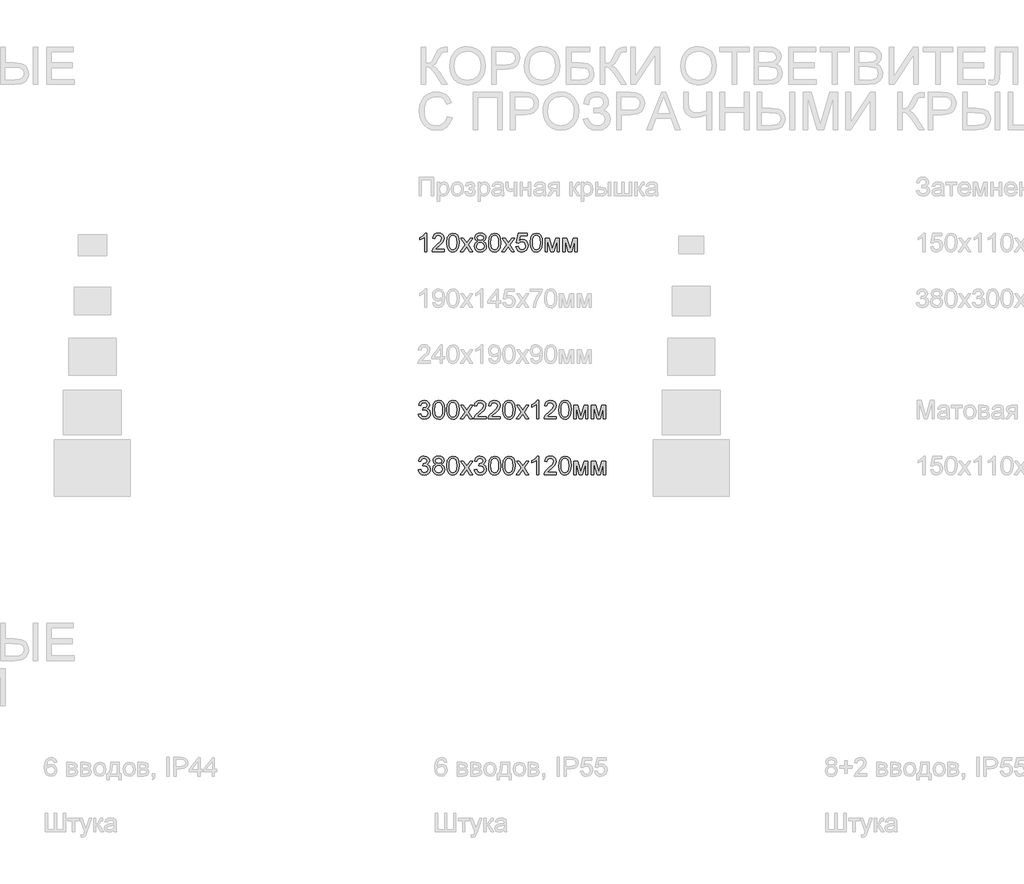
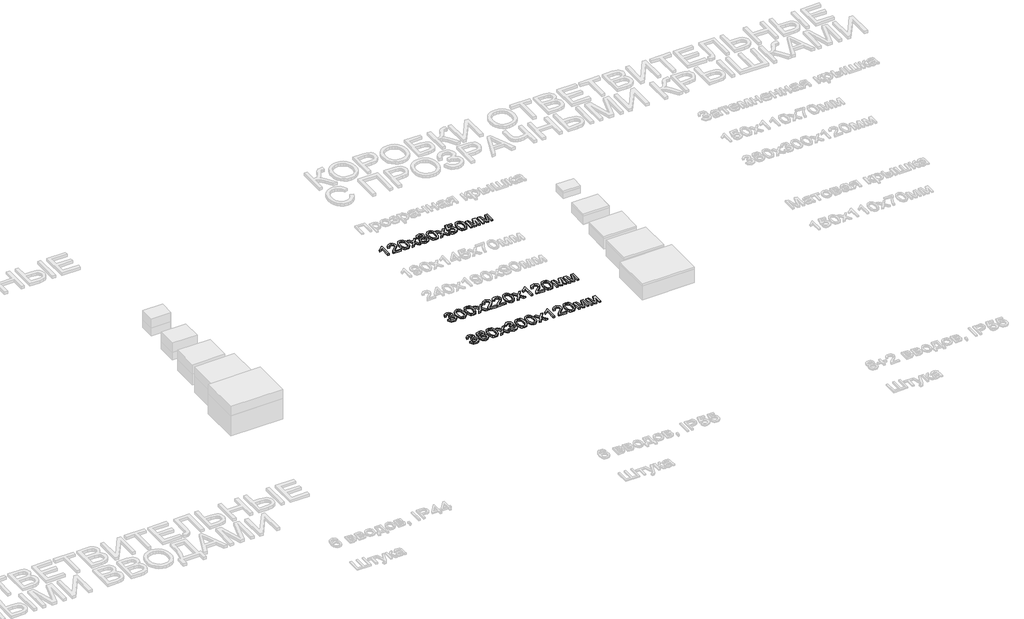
# One storey, part 21 of 98: 3 proxies.
"""IFC4 building model written with IfcOpenShell, lengths in millimetres."""

from ifc_helpers import new_model, si_unit, origin, origin_with_axes, place, context, project, spatial, polyline, outline, extrude, element, save

model = new_model("IFC4")

# Units and contexts
model_context = context("Model", 3, world=origin())
ifc_project = project(units=[si_unit("LENGTHUNIT", "METRE", prefix="MILLI")], contexts=[model_context])

# Site, building, storey
site = spatial("IfcSite", under=ifc_project)
building = spatial("IfcBuilding", under=site)
storey = spatial("IfcBuildingStorey", under=building, Name="Этаж 01", Elevation=0.0)

# Proxies
placement = place(None, origin())
element("IfcBuildingElementProxy", 1, Name="100", ObjectType="100", at=placement, inside=storey, context=model_context, shape_type="SweptSolid", body=[
    extrude(outline(polyline([(5907.7229186, -42337.5373486), (5895.1658798, -42337.5373486), (5895.1658798, -42259.25206), (5883.2710286, -42267.7256087), (5870.0518023, -42274.0654417), (5870.0518023, -42262.195116), (5888.4581648, -42250.4474176), (5899.6295147, -42237.0810385), (5907.7229186, -42237.0810385), (5907.7229186, -42337.5373486)])), origin_with_axes(), (0.0, 0.0, 1.0), 10.0),
    extrude(outline(polyline([(6001.9007094, -42324.9803098), (6001.9007094, -42337.5373486), (5935.9762558, -42337.5373486), (5937.3251565, -42328.879859), (5944.9525765, -42315.550268), (5960.6734004, -42300.9944038), (5982.3539127, -42280.074181), (5987.7740407, -42265.8494105), (5982.660481, -42254.334704), (5969.3063646, -42249.6380772), (5955.3881624, -42254.2243394), (5950.1029244, -42266.9040055), (5937.5458857, -42265.3343757), (5940.5901092, -42253.1881385), (5947.1721312, -42244.316051), (5956.9485952, -42238.8897916), (5969.5761447, -42237.0810385), (5982.2956647, -42239.0921267), (5992.0537346, -42245.1253914), (5998.2617433, -42254.1385003), (6000.3310795, -42265.089121), (5998.0992621, -42276.9962349), (5990.6803085, -42289.308019), (5972.6908789, -42306.5126337), (5958.2453793, -42318.5914259), (5952.5799965, -42324.9803098), (6001.9007094, -42324.9803098)])), origin_with_axes(), (0.0, 0.0, 1.0), 10.0),
    extrude(outline(polyline([(6014.4577481, -42288.1185339), (6018.1488308, -42259.2152718), (6029.1117143, -42242.5502175), (6047.4199749, -42237.0810385), (6062.0862038, -42240.3184), (6072.2152214, -42249.65034), (6078.1013333, -42264.5127726), (6080.3822017, -42288.1185339), (6076.7279072, -42316.8991687), (6065.8018119, -42333.6010113), (6057.5704523, -42337.7304867), (6047.4199749, -42339.1069785), (6034.3724268, -42336.7157455), (6024.4641384, -42329.5420466), (6016.9593457, -42312.5520298), (6014.4577481, -42288.1185339)]), holes=[polyline([(6027.0147869, -42288.0940085), (6028.4863149, -42307.8462059), (6032.9008988, -42319.2781389), (6039.4737238, -42324.7319895), (6047.4199749, -42326.5499397), (6055.366226, -42324.7258581), (6061.939051, -42319.2536135), (6066.3536349, -42307.8155491), (6067.8251629, -42288.0940085), (6066.4026858, -42268.7863351), (6062.1352547, -42257.2654973), (6055.5746925, -42251.5449322), (6047.2728221, -42249.6380772), (6039.4124101, -42251.3180717), (6033.0971025, -42256.358055), (6028.5353658, -42268.5962627), (6027.0147869, -42288.0940085)])]), origin_with_axes(), (0.0, 0.0, 1.0), 10.0),
    extrude(outline(polyline([(6086.660721, -42337.5373486), (6113.4915812, -42300.4548435), (6088.2303509, -42263.7647458), (6103.3380382, -42263.7647458), (6115.5271949, -42281.4230816), (6121.2171031, -42289.7617402), (6126.1467219, -42282.9436605), (6140.0281358, -42263.7647458), (6155.1358231, -42263.7647458), (6128.5992685, -42300.4548435), (6154.1548044, -42337.5373486), (6139.0471172, -42337.5373486), (6123.6696498, -42315.2436997), (6120.8492211, -42311.1724723), (6101.7684083, -42337.5373486), (6086.660721, -42337.5373486)])), origin_with_axes(), (0.0, 0.0, 1.0), 10.0),
    extrude(outline(polyline([(6180.2989516, -42282.2078965), (6168.8578215, -42274.4087982), (6165.1422134, -42262.2686924), (6167.1655643, -42252.4523745), (6173.2356172, -42244.3405765), (6182.6717904, -42238.895923), (6194.7935022, -42237.0810385), (6206.9887903, -42238.9388425), (6216.5475908, -42244.5122548), (6222.7280083, -42252.7528115), (6224.7881475, -42262.6120489), (6221.1215903, -42274.4455864), (6209.9992913, -42282.2078965), (6223.3534077, -42292.0548713), (6227.9274072, -42308.3029927), (6225.6588016, -42320.3082085), (6218.8529846, -42330.2287596), (6208.3438223, -42336.8874238), (6194.9651804, -42339.1069785), (6181.5865385, -42336.8782267), (6171.0773762, -42330.1919714), (6164.2715593, -42320.1763841), (6162.0029537, -42307.9596362), (6166.7608941, -42291.33137), (6180.2989516, -42282.2078965)]), holes=[polyline([(6174.5599924, -42307.5181778), (6176.6569198, -42316.9727451), (6184.0758734, -42324.0483421), (6195.0632823, -42326.5499397), (6203.6104073, -42325.2347616), (6210.0238168, -42321.2892272), (6215.3703684, -42307.9105853), (6209.8521385, -42294.274426), (6203.2915763, -42290.227724), (6194.6463494, -42288.8788234), (6186.218786, -42290.2093299), (6179.8697559, -42294.2008496), (6174.5599924, -42307.5181778)]), polyline([(6177.6992521, -42262.6365744), (6182.1506243, -42272.4958119), (6195.1123332, -42276.3217846), (6207.8165248, -42272.5203373), (6212.2311087, -42263.2006601), (6207.669372, -42253.5498891), (6194.9651804, -42249.6380772), (6182.2242007, -42253.46405), (6177.6992521, -42262.6365744)])]), origin_with_axes(), (0.0, 0.0, 1.0), 10.0),
    extrude(outline(polyline([(6238.9148161, -42288.1185339), (6242.6058988, -42259.2152718), (6253.5687823, -42242.5502175), (6271.8770429, -42237.0810385), (6286.5432718, -42240.3184), (6296.6722894, -42249.65034), (6302.5584013, -42264.5127726), (6304.8392697, -42288.1185339), (6301.1849752, -42316.8991687), (6290.2588799, -42333.6010113), (6282.0275203, -42337.7304867), (6271.8770429, -42339.1069785), (6258.8294948, -42336.7157455), (6248.9212064, -42329.5420466), (6241.4164137, -42312.5520298), (6238.9148161, -42288.1185339)]), holes=[polyline([(6251.4718549, -42288.0940085), (6252.9433829, -42307.8462059), (6257.3579668, -42319.2781389), (6263.9307918, -42324.7319895), (6271.8770429, -42326.5499397), (6279.823294, -42324.7258581), (6286.396119, -42319.2536135), (6290.8107029, -42307.8155491), (6292.2822309, -42288.0940085), (6290.8597538, -42268.7863351), (6286.5923227, -42257.2654973), (6280.0317604, -42251.5449322), (6271.7298901, -42249.6380772), (6263.8694781, -42251.3180717), (6257.5541705, -42256.358055), (6252.9924338, -42268.5962627), (6251.4718549, -42288.0940085)])]), origin_with_axes(), (0.0, 0.0, 1.0), 10.0),
    extrude(outline(polyline([(6311.117789, -42337.5373486), (6337.9486492, -42300.4548435), (6312.6874189, -42263.7647458), (6327.7951062, -42263.7647458), (6339.9842629, -42281.4230816), (6345.6741711, -42289.7617402), (6350.6037899, -42282.9436605), (6364.4852038, -42263.7647458), (6379.5928911, -42263.7647458), (6353.0563365, -42300.4548435), (6378.6118724, -42337.5373486), (6363.5041852, -42337.5373486), (6348.1267178, -42315.2436997), (6345.3062891, -42311.1724723), (6326.2254763, -42337.5373486), (6311.117789, -42337.5373486)])), origin_with_axes(), (0.0, 0.0, 1.0), 10.0),
    extrude(outline(polyline([(6386.4600216, -42310.8536412), (6399.0170604, -42309.2840114), (6405.3446307, -42322.2211949), (6418.4657552, -42326.5499397), (6427.4666014, -42325.0446892), (6434.2111046, -42320.5289377), (6438.4233535, -42313.5238514), (6439.8274364, -42304.5505964), (6434.5667239, -42289.6391128), (6427.9601764, -42285.5372286), (6418.661959, -42284.1699338), (6407.6377618, -42286.3527004), (6400.5866903, -42292.0180831), (6388.0296515, -42290.4484532), (6399.0170604, -42238.6506683), (6447.6755856, -42238.6506683), (6447.6755856, -42251.2077071), (6409.1706035, -42251.2077071), (6403.7995264, -42278.8724331), (6412.7697157, -42273.4277796), (6422.1691006, -42271.6128951), (6433.9014706, -42273.8631066), (6443.6411464, -42280.6137412), (6450.198643, -42290.9021744), (6452.3844752, -42303.7657815), (6450.4163065, -42316.3228202), (6444.5118005, -42327.0649745), (6433.2055605, -42336.0964775), (6418.4167043, -42339.1069785), (6406.0834604, -42337.1725323), (6396.2579455, -42331.3691938), (6389.5226393, -42322.3714134), (6386.4600216, -42310.8536412)])), origin_with_axes(), (0.0, 0.0, 1.0), 10.0),
    extrude(outline(polyline([(6463.3718841, -42288.1185339), (6467.0629668, -42259.2152718), (6478.0258502, -42242.5502175), (6496.3341109, -42237.0810385), (6511.0003398, -42240.3184), (6521.1293574, -42249.65034), (6527.0154693, -42264.5127726), (6529.2963376, -42288.1185339), (6525.6420432, -42316.8991687), (6514.7159479, -42333.6010113), (6506.4845883, -42337.7304867), (6496.3341109, -42339.1069785), (6483.2865628, -42336.7157455), (6473.3782744, -42329.5420466), (6465.8734817, -42312.5520298), (6463.3718841, -42288.1185339)]), holes=[polyline([(6475.9289229, -42288.0940085), (6477.4004509, -42307.8462059), (6481.8150348, -42319.2781389), (6488.3878598, -42324.7319895), (6496.3341109, -42326.5499397), (6504.280362, -42324.7258581), (6510.853187, -42319.2536135), (6515.2677709, -42307.8155491), (6516.7392989, -42288.0940085), (6515.3168218, -42268.7863351), (6511.0493907, -42257.2654973), (6504.4888284, -42251.5449322), (6496.1869581, -42249.6380772), (6488.3265461, -42251.3180717), (6482.0112385, -42256.358055), (6477.4495018, -42268.5962627), (6475.9289229, -42288.0940085)])]), origin_with_axes(), (0.0, 0.0, 1.0), 10.0),
    extrude(outline(polyline([(6543.4230063, -42263.7647458), (6565.0299421, -42263.7647458), (6581.6827338, -42322.8220688), (6599.6353751, -42263.7647458), (6620.3348687, -42263.7647458), (6620.3348687, -42337.5373486), (6607.7778299, -42337.5373486), (6607.7778299, -42278.1366691), (6589.7270867, -42337.5373486), (6573.2459733, -42337.5373486), (6555.980045, -42275.291715), (6555.980045, -42337.5373486), (6543.4230063, -42337.5373486), (6543.4230063, -42263.7647458)])), origin_with_axes(), (0.0, 0.0, 1.0), 10.0),
    extrude(outline(polyline([(6639.1704269, -42263.7647458), (6660.7773627, -42263.7647458), (6677.4301544, -42322.8220688), (6695.3827957, -42263.7647458), (6716.0822893, -42263.7647458), (6716.0822893, -42337.5373486), (6703.5252506, -42337.5373486), (6703.5252506, -42278.1366691), (6685.4745073, -42337.5373486), (6668.9933939, -42337.5373486), (6651.7274656, -42275.291715), (6651.7274656, -42337.5373486), (6639.1704269, -42337.5373486), (6639.1704269, -42263.7647458)])), origin_with_axes(), (0.0, 0.0, 1.0), 10.0),
])
element("IfcBuildingElementProxy", 2, Name="100", ObjectType="100", at=placement, inside=storey, context=model_context, shape_type="SweptSolid", body=[
    extrude(outline(polyline([(5860.6340232, -43210.8536412), (5873.191062, -43209.2840114), (5880.1195062, -43222.5032377), (5893.0812152, -43226.5499397), (5901.6896539, -43225.1581195), (5908.3360553, -43220.9826588), (5914.001438, -43207.1993467), (5908.3851062, -43194.2131123), (5894.1112848, -43189.0750271), (5885.3066424, -43190.4484532), (5886.7045939, -43177.8914145), (5888.7156822, -43178.0385673), (5902.9649781, -43174.4333237), (5907.7106559, -43169.8593242), (5909.2925484, -43163.3478129), (5904.7062862, -43153.5253636), (5892.8850115, -43149.6380772), (5880.9165839, -43153.5621518), (5874.7606918, -43165.3343757), (5862.2036531, -43163.7647458), (5865.9008671, -43152.4891627), (5872.4798235, -43144.0707964), (5881.4806696, -43138.8284779), (5892.4435531, -43137.0810385), (5907.5880285, -43140.5268665), (5918.18303, -43149.9446456), (5921.8495872, -43162.6120489), (5918.366971, -43174.188069), (5908.0662751, -43182.5022021), (5921.7514853, -43191.0861154), (5926.5584767, -43207.4200759), (5924.154981, -43219.6582836), (5916.9444939, -43229.8854031), (5906.0613182, -43236.8015846), (5892.6397568, -43239.1069785), (5880.499651, -43237.1388098), (5870.615888, -43231.2343038), (5863.7426261, -43222.2028008), (5860.6340232, -43210.8536412)])), origin_with_axes(), (0.0, 0.0, 1.0), 10.0),
    extrude(outline(polyline([(5937.5458857, -43188.1185339), (5941.2369684, -43159.2152718), (5952.1998518, -43142.5502175), (5970.5081124, -43137.0810385), (5985.1743413, -43140.3184), (5995.3033589, -43149.65034), (6001.1894708, -43164.5127726), (6003.4703392, -43188.1185339), (5999.8160447, -43216.8991687), (5988.8899495, -43233.6010113), (5980.6585898, -43237.7304867), (5970.5081124, -43239.1069785), (5957.4605643, -43236.7157455), (5947.5522759, -43229.5420466), (5940.0474832, -43212.5520298), (5937.5458857, -43188.1185339)]), holes=[polyline([(5950.1029244, -43188.0940085), (5951.5744524, -43207.8462059), (5955.9890364, -43219.2781389), (5962.5618613, -43224.7319895), (5970.5081124, -43226.5499397), (5978.4543635, -43224.7258581), (5985.0271885, -43219.2536135), (5989.4417725, -43207.8155491), (5990.9133004, -43188.0940085), (5989.4908234, -43168.7863351), (5985.2233922, -43157.2654973), (5978.66283, -43151.5449322), (5970.3609596, -43149.6380772), (5962.5005477, -43151.3180717), (5956.1852401, -43156.358055), (5951.6235034, -43168.5962627), (5950.1029244, -43188.0940085)])]), origin_with_axes(), (0.0, 0.0, 1.0), 10.0),
    extrude(outline(polyline([(6014.4577481, -43188.1185339), (6018.1488308, -43159.2152718), (6029.1117143, -43142.5502175), (6047.4199749, -43137.0810385), (6062.0862038, -43140.3184), (6072.2152214, -43149.65034), (6078.1013333, -43164.5127726), (6080.3822017, -43188.1185339), (6076.7279072, -43216.8991687), (6065.8018119, -43233.6010113), (6057.5704523, -43237.7304867), (6047.4199749, -43239.1069785), (6034.3724268, -43236.7157455), (6024.4641384, -43229.5420466), (6016.9593457, -43212.5520298), (6014.4577481, -43188.1185339)]), holes=[polyline([(6027.0147869, -43188.0940085), (6028.4863149, -43207.8462059), (6032.9008988, -43219.2781389), (6039.4737238, -43224.7319895), (6047.4199749, -43226.5499397), (6055.366226, -43224.7258581), (6061.939051, -43219.2536135), (6066.3536349, -43207.8155491), (6067.8251629, -43188.0940085), (6066.4026858, -43168.7863351), (6062.1352547, -43157.2654973), (6055.5746925, -43151.5449322), (6047.2728221, -43149.6380772), (6039.4124101, -43151.3180717), (6033.0971025, -43156.358055), (6028.5353658, -43168.5962627), (6027.0147869, -43188.0940085)])]), origin_with_axes(), (0.0, 0.0, 1.0), 10.0),
    extrude(outline(polyline([(6086.660721, -43237.5373486), (6113.4915812, -43200.4548435), (6088.2303509, -43163.7647458), (6103.3380382, -43163.7647458), (6115.5271949, -43181.4230816), (6121.2171031, -43189.7617402), (6126.1467219, -43182.9436605), (6140.0281358, -43163.7647458), (6155.1358231, -43163.7647458), (6128.5992685, -43200.4548435), (6154.1548044, -43237.5373486), (6139.0471172, -43237.5373486), (6123.6696498, -43215.2436997), (6120.8492211, -43211.1724723), (6101.7684083, -43237.5373486), (6086.660721, -43237.5373486)])), origin_with_axes(), (0.0, 0.0, 1.0), 10.0),
    extrude(outline(polyline([(6226.3577773, -43224.9803098), (6226.3577773, -43237.5373486), (6160.4333238, -43237.5373486), (6161.7822245, -43228.879859), (6169.4096445, -43215.550268), (6185.1304684, -43200.9944038), (6206.8109807, -43180.074181), (6212.2311087, -43165.8494105), (6207.117549, -43154.334704), (6193.7634326, -43149.6380772), (6179.8452304, -43154.2243394), (6174.5599924, -43166.9040055), (6162.0029537, -43165.3343757), (6165.0471772, -43153.1881385), (6171.6291992, -43144.316051), (6181.4056632, -43138.8897916), (6194.0332127, -43137.0810385), (6206.7527327, -43139.0921267), (6216.5108026, -43145.1253914), (6222.7188113, -43154.1385003), (6224.7881475, -43165.089121), (6222.5563301, -43176.9962349), (6215.1373765, -43189.308019), (6197.1479469, -43206.5126337), (6182.7024473, -43218.5914259), (6177.0370645, -43224.9803098), (6226.3577773, -43224.9803098)])), origin_with_axes(), (0.0, 0.0, 1.0), 10.0),
    extrude(outline(polyline([(6303.2696398, -43224.9803098), (6303.2696398, -43237.5373486), (6237.3451863, -43237.5373486), (6238.6940869, -43228.879859), (6246.321507, -43215.550268), (6262.0423309, -43200.9944038), (6283.7228431, -43180.074181), (6289.1429712, -43165.8494105), (6284.0294115, -43154.334704), (6270.675295, -43149.6380772), (6256.7570929, -43154.2243394), (6251.4718549, -43166.9040055), (6238.9148161, -43165.3343757), (6241.9590396, -43153.1881385), (6248.5410617, -43144.316051), (6258.3175257, -43138.8897916), (6270.9450752, -43137.0810385), (6283.6645951, -43139.0921267), (6293.4226651, -43145.1253914), (6299.6306737, -43154.1385003), (6301.70001, -43165.089121), (6299.4681925, -43176.9962349), (6292.049239, -43189.308019), (6274.0598094, -43206.5126337), (6259.6143097, -43218.5914259), (6253.948927, -43224.9803098), (6303.2696398, -43224.9803098)])), origin_with_axes(), (0.0, 0.0, 1.0), 10.0),
    extrude(outline(polyline([(6315.8266786, -43188.1185339), (6319.5177613, -43159.2152718), (6330.4806447, -43142.5502175), (6348.7889053, -43137.0810385), (6363.4551342, -43140.3184), (6373.5841518, -43149.65034), (6379.4702637, -43164.5127726), (6381.7511321, -43188.1185339), (6378.0968376, -43216.8991687), (6367.1707424, -43233.6010113), (6358.9393827, -43237.7304867), (6348.7889053, -43239.1069785), (6335.7413572, -43236.7157455), (6325.8330688, -43229.5420466), (6318.3282761, -43212.5520298), (6315.8266786, -43188.1185339)]), holes=[polyline([(6328.3837173, -43188.0940085), (6329.8552453, -43207.8462059), (6334.2698293, -43219.2781389), (6340.8426542, -43224.7319895), (6348.7889053, -43226.5499397), (6356.7351564, -43224.7258581), (6363.3079814, -43219.2536135), (6367.7225654, -43207.8155491), (6369.1940933, -43188.0940085), (6367.7716163, -43168.7863351), (6363.5041852, -43157.2654973), (6356.9436229, -43151.5449322), (6348.6417525, -43149.6380772), (6340.7813406, -43151.3180717), (6334.466033, -43156.358055), (6329.9042963, -43168.5962627), (6328.3837173, -43188.0940085)])]), origin_with_axes(), (0.0, 0.0, 1.0), 10.0),
    extrude(outline(polyline([(6388.0296515, -43237.5373486), (6414.8605117, -43200.4548435), (6389.5992813, -43163.7647458), (6404.7069686, -43163.7647458), (6416.8961254, -43181.4230816), (6422.5860336, -43189.7617402), (6427.5156523, -43182.9436605), (6441.3970663, -43163.7647458), (6456.5047535, -43163.7647458), (6429.9681989, -43200.4548435), (6455.5237349, -43237.5373486), (6440.4160476, -43237.5373486), (6425.0385802, -43215.2436997), (6422.2181516, -43211.1724723), (6403.1373388, -43237.5373486), (6388.0296515, -43237.5373486)])), origin_with_axes(), (0.0, 0.0, 1.0), 10.0),
    extrude(outline(polyline([(6510.4607795, -43237.5373486), (6497.9037407, -43237.5373486), (6497.9037407, -43159.25206), (6486.0088895, -43167.7256087), (6472.7896632, -43174.0654417), (6472.7896632, -43162.195116), (6491.1960257, -43150.4474176), (6502.3673756, -43137.0810385), (6510.4607795, -43137.0810385), (6510.4607795, -43237.5373486)])), origin_with_axes(), (0.0, 0.0, 1.0), 10.0),
    extrude(outline(polyline([(6604.6385703, -43224.9803098), (6604.6385703, -43237.5373486), (6538.7141167, -43237.5373486), (6540.0630174, -43228.879859), (6547.6904374, -43215.550268), (6563.4112613, -43200.9944038), (6585.0917736, -43180.074181), (6590.5119016, -43165.8494105), (6585.3983419, -43154.334704), (6572.0442255, -43149.6380772), (6558.1260233, -43154.2243394), (6552.8407853, -43166.9040055), (6540.2837466, -43165.3343757), (6543.3279701, -43153.1881385), (6549.9099921, -43144.316051), (6559.6864561, -43138.8897916), (6572.3140056, -43137.0810385), (6585.0335256, -43139.0921267), (6594.7915955, -43145.1253914), (6600.9996042, -43154.1385003), (6603.0689404, -43165.089121), (6600.837123, -43176.9962349), (6593.4181694, -43189.308019), (6575.4287398, -43206.5126337), (6560.9832402, -43218.5914259), (6555.3178574, -43224.9803098), (6604.6385703, -43224.9803098)])), origin_with_axes(), (0.0, 0.0, 1.0), 10.0),
    extrude(outline(polyline([(6617.195609, -43188.1185339), (6620.8866917, -43159.2152718), (6631.8495752, -43142.5502175), (6650.1578358, -43137.0810385), (6664.8240647, -43140.3184), (6674.9530823, -43149.65034), (6680.8391942, -43164.5127726), (6683.1200626, -43188.1185339), (6679.4657681, -43216.8991687), (6668.5396728, -43233.6010113), (6660.3083132, -43237.7304867), (6650.1578358, -43239.1069785), (6637.1102877, -43236.7157455), (6627.2019993, -43229.5420466), (6619.6972066, -43212.5520298), (6617.195609, -43188.1185339)]), holes=[polyline([(6629.7526478, -43188.0940085), (6631.2241758, -43207.8462059), (6635.6387597, -43219.2781389), (6642.2115847, -43224.7319895), (6650.1578358, -43226.5499397), (6658.1040869, -43224.7258581), (6664.6769119, -43219.2536135), (6669.0914958, -43207.8155491), (6670.5630238, -43188.0940085), (6669.1405467, -43168.7863351), (6664.8731156, -43157.2654973), (6658.3125534, -43151.5449322), (6650.010683, -43149.6380772), (6642.150271, -43151.3180717), (6635.8349634, -43156.358055), (6631.2732267, -43168.5962627), (6629.7526478, -43188.0940085)])]), origin_with_axes(), (0.0, 0.0, 1.0), 10.0),
    extrude(outline(polyline([(6697.2467312, -43163.7647458), (6718.853667, -43163.7647458), (6735.5064587, -43222.8220688), (6753.4591, -43163.7647458), (6774.1585936, -43163.7647458), (6774.1585936, -43237.5373486), (6761.6015549, -43237.5373486), (6761.6015549, -43178.1366691), (6743.5508116, -43237.5373486), (6727.0696983, -43237.5373486), (6709.8037699, -43175.291715), (6709.8037699, -43237.5373486), (6697.2467312, -43237.5373486), (6697.2467312, -43163.7647458)])), origin_with_axes(), (0.0, 0.0, 1.0), 10.0),
    extrude(outline(polyline([(6792.9941518, -43163.7647458), (6814.6010876, -43163.7647458), (6831.2538793, -43222.8220688), (6849.2065206, -43163.7647458), (6869.9060142, -43163.7647458), (6869.9060142, -43237.5373486), (6857.3489755, -43237.5373486), (6857.3489755, -43178.1366691), (6839.2982322, -43237.5373486), (6822.8171189, -43237.5373486), (6805.5511906, -43175.291715), (6805.5511906, -43237.5373486), (6792.9941518, -43237.5373486), (6792.9941518, -43163.7647458)])), origin_with_axes(), (0.0, 0.0, 1.0), 10.0),
])
element("IfcBuildingElementProxy", 3, Name="100", ObjectType="100", at=placement, inside=storey, context=model_context, shape_type="SweptSolid", body=[
    extrude(outline(polyline([(5860.6340232, -43510.8536412), (5873.191062, -43509.2840114), (5880.1195062, -43522.5032377), (5893.0812152, -43526.5499397), (5901.6896539, -43525.1581195), (5908.3360553, -43520.9826588), (5914.001438, -43507.1993467), (5908.3851062, -43494.2131123), (5894.1112848, -43489.0750271), (5885.3066424, -43490.4484532), (5886.7045939, -43477.8914145), (5888.7156822, -43478.0385673), (5902.9649781, -43474.4333237), (5907.7106559, -43469.8593242), (5909.2925484, -43463.3478129), (5904.7062862, -43453.5253636), (5892.8850115, -43449.6380772), (5880.9165839, -43453.5621518), (5874.7606918, -43465.3343757), (5862.2036531, -43463.7647458), (5865.9008671, -43452.4891627), (5872.4798235, -43444.0707964), (5881.4806696, -43438.8284779), (5892.4435531, -43437.0810385), (5907.5880285, -43440.5268665), (5918.18303, -43449.9446456), (5921.8495872, -43462.6120489), (5918.366971, -43474.188069), (5908.0662751, -43482.5022021), (5921.7514853, -43491.0861154), (5926.5584767, -43507.4200759), (5924.154981, -43519.6582836), (5916.9444939, -43529.8854031), (5906.0613182, -43536.8015846), (5892.6397568, -43539.1069785), (5880.499651, -43537.1388098), (5870.615888, -43531.2343038), (5863.7426261, -43522.2028008), (5860.6340232, -43510.8536412)])), origin_with_axes(), (0.0, 0.0, 1.0), 10.0),
    extrude(outline(polyline([(5955.8418836, -43482.2078965), (5944.4007535, -43474.4087982), (5940.6851454, -43462.2686924), (5942.7084963, -43452.4523745), (5948.7785493, -43444.3405765), (5958.2147224, -43438.895923), (5970.3364342, -43437.0810385), (5982.5317223, -43438.9388425), (5992.0905228, -43444.5122548), (5998.2709403, -43452.7528115), (6000.3310795, -43462.6120489), (5996.6645223, -43474.4455864), (5985.5422233, -43482.2078965), (5998.8963397, -43492.0548713), (6003.4703392, -43508.3029927), (6001.2017336, -43520.3082085), (5994.3959167, -43530.2287596), (5983.8867543, -43536.8874238), (5970.5081124, -43539.1069785), (5957.1294705, -43536.8782267), (5946.6203082, -43530.1919714), (5939.8144913, -43520.1763841), (5937.5458857, -43507.9596362), (5942.3038261, -43491.33137), (5955.8418836, -43482.2078965)]), holes=[polyline([(5953.2421841, -43462.6365744), (5957.6935563, -43472.4958119), (5970.6552652, -43476.3217846), (5983.3594568, -43472.5203373), (5987.7740407, -43463.2006601), (5983.212304, -43453.5498891), (5970.5081124, -43449.6380772), (5957.7671327, -43453.46405), (5953.2421841, -43462.6365744)]), polyline([(5950.1029244, -43507.5181778), (5952.1998518, -43516.9727451), (5959.6188054, -43524.0483421), (5970.6062143, -43526.5499397), (5979.1533393, -43525.2347616), (5985.5667488, -43521.2892272), (5990.9133004, -43507.9105853), (5985.3950705, -43494.274426), (5978.8345083, -43490.227724), (5970.1892814, -43488.8788234), (5961.761718, -43490.2093299), (5955.4126879, -43494.2008496), (5950.1029244, -43507.5181778)])]), origin_with_axes(), (0.0, 0.0, 1.0), 10.0),
    extrude(outline(polyline([(6014.4577481, -43488.1185339), (6018.1488308, -43459.2152718), (6029.1117143, -43442.5502175), (6047.4199749, -43437.0810385), (6062.0862038, -43440.3184), (6072.2152214, -43449.65034), (6078.1013333, -43464.5127726), (6080.3822017, -43488.1185339), (6076.7279072, -43516.8991687), (6065.8018119, -43533.6010113), (6057.5704523, -43537.7304867), (6047.4199749, -43539.1069785), (6034.3724268, -43536.7157455), (6024.4641384, -43529.5420466), (6016.9593457, -43512.5520298), (6014.4577481, -43488.1185339)]), holes=[polyline([(6027.0147869, -43488.0940085), (6028.4863149, -43507.8462059), (6032.9008988, -43519.2781389), (6039.4737238, -43524.7319895), (6047.4199749, -43526.5499397), (6055.366226, -43524.7258581), (6061.939051, -43519.2536135), (6066.3536349, -43507.8155491), (6067.8251629, -43488.0940085), (6066.4026858, -43468.7863351), (6062.1352547, -43457.2654973), (6055.5746925, -43451.5449322), (6047.2728221, -43449.6380772), (6039.4124101, -43451.3180717), (6033.0971025, -43456.358055), (6028.5353658, -43468.5962627), (6027.0147869, -43488.0940085)])]), origin_with_axes(), (0.0, 0.0, 1.0), 10.0),
    extrude(outline(polyline([(6086.660721, -43537.5373486), (6113.4915812, -43500.4548435), (6088.2303509, -43463.7647458), (6103.3380382, -43463.7647458), (6115.5271949, -43481.4230816), (6121.2171031, -43489.7617402), (6126.1467219, -43482.9436605), (6140.0281358, -43463.7647458), (6155.1358231, -43463.7647458), (6128.5992685, -43500.4548435), (6154.1548044, -43537.5373486), (6139.0471172, -43537.5373486), (6123.6696498, -43515.2436997), (6120.8492211, -43511.1724723), (6101.7684083, -43537.5373486), (6086.660721, -43537.5373486)])), origin_with_axes(), (0.0, 0.0, 1.0), 10.0),
    extrude(outline(polyline([(6162.0029537, -43510.8536412), (6174.5599924, -43509.2840114), (6181.4884367, -43522.5032377), (6194.4501456, -43526.5499397), (6203.0585843, -43525.1581195), (6209.7049857, -43520.9826588), (6215.3703684, -43507.1993467), (6209.7540366, -43494.2131123), (6195.4802152, -43489.0750271), (6186.6755728, -43490.4484532), (6188.0735244, -43477.8914145), (6190.0846126, -43478.0385673), (6204.3339086, -43474.4333237), (6209.0795863, -43469.8593242), (6210.6614789, -43463.3478129), (6206.0752167, -43453.5253636), (6194.2539419, -43449.6380772), (6182.2855143, -43453.5621518), (6176.1296223, -43465.3343757), (6163.5725835, -43463.7647458), (6167.2697976, -43452.4891627), (6173.8487539, -43444.0707964), (6182.8496001, -43438.8284779), (6193.8124835, -43437.0810385), (6208.956959, -43440.5268665), (6219.5519604, -43449.9446456), (6223.2185177, -43462.6120489), (6219.7359014, -43474.188069), (6209.4352056, -43482.5022021), (6223.1204158, -43491.0861154), (6227.9274072, -43507.4200759), (6225.5239115, -43519.6582836), (6218.3134244, -43529.8854031), (6207.4302487, -43536.8015846), (6194.0086872, -43539.1069785), (6181.8685814, -43537.1388098), (6171.9848185, -43531.2343038), (6165.1115565, -43522.2028008), (6162.0029537, -43510.8536412)])), origin_with_axes(), (0.0, 0.0, 1.0), 10.0),
    extrude(outline(polyline([(6238.9148161, -43488.1185339), (6242.6058988, -43459.2152718), (6253.5687823, -43442.5502175), (6271.8770429, -43437.0810385), (6286.5432718, -43440.3184), (6296.6722894, -43449.65034), (6302.5584013, -43464.5127726), (6304.8392697, -43488.1185339), (6301.1849752, -43516.8991687), (6290.2588799, -43533.6010113), (6282.0275203, -43537.7304867), (6271.8770429, -43539.1069785), (6258.8294948, -43536.7157455), (6248.9212064, -43529.5420466), (6241.4164137, -43512.5520298), (6238.9148161, -43488.1185339)]), holes=[polyline([(6251.4718549, -43488.0940085), (6252.9433829, -43507.8462059), (6257.3579668, -43519.2781389), (6263.9307918, -43524.7319895), (6271.8770429, -43526.5499397), (6279.823294, -43524.7258581), (6286.396119, -43519.2536135), (6290.8107029, -43507.8155491), (6292.2822309, -43488.0940085), (6290.8597538, -43468.7863351), (6286.5923227, -43457.2654973), (6280.0317604, -43451.5449322), (6271.7298901, -43449.6380772), (6263.8694781, -43451.3180717), (6257.5541705, -43456.358055), (6252.9924338, -43468.5962627), (6251.4718549, -43488.0940085)])]), origin_with_axes(), (0.0, 0.0, 1.0), 10.0),
    extrude(outline(polyline([(6315.8266786, -43488.1185339), (6319.5177613, -43459.2152718), (6330.4806447, -43442.5502175), (6348.7889053, -43437.0810385), (6363.4551342, -43440.3184), (6373.5841518, -43449.65034), (6379.4702637, -43464.5127726), (6381.7511321, -43488.1185339), (6378.0968376, -43516.8991687), (6367.1707424, -43533.6010113), (6358.9393827, -43537.7304867), (6348.7889053, -43539.1069785), (6335.7413572, -43536.7157455), (6325.8330688, -43529.5420466), (6318.3282761, -43512.5520298), (6315.8266786, -43488.1185339)]), holes=[polyline([(6328.3837173, -43488.0940085), (6329.8552453, -43507.8462059), (6334.2698293, -43519.2781389), (6340.8426542, -43524.7319895), (6348.7889053, -43526.5499397), (6356.7351564, -43524.7258581), (6363.3079814, -43519.2536135), (6367.7225654, -43507.8155491), (6369.1940933, -43488.0940085), (6367.7716163, -43468.7863351), (6363.5041852, -43457.2654973), (6356.9436229, -43451.5449322), (6348.6417525, -43449.6380772), (6340.7813406, -43451.3180717), (6334.466033, -43456.358055), (6329.9042963, -43468.5962627), (6328.3837173, -43488.0940085)])]), origin_with_axes(), (0.0, 0.0, 1.0), 10.0),
    extrude(outline(polyline([(6388.0296515, -43537.5373486), (6414.8605117, -43500.4548435), (6389.5992813, -43463.7647458), (6404.7069686, -43463.7647458), (6416.8961254, -43481.4230816), (6422.5860336, -43489.7617402), (6427.5156523, -43482.9436605), (6441.3970663, -43463.7647458), (6456.5047535, -43463.7647458), (6429.9681989, -43500.4548435), (6455.5237349, -43537.5373486), (6440.4160476, -43537.5373486), (6425.0385802, -43515.2436997), (6422.2181516, -43511.1724723), (6403.1373388, -43537.5373486), (6388.0296515, -43537.5373486)])), origin_with_axes(), (0.0, 0.0, 1.0), 10.0),
    extrude(outline(polyline([(6510.4607795, -43537.5373486), (6497.9037407, -43537.5373486), (6497.9037407, -43459.25206), (6486.0088895, -43467.7256087), (6472.7896632, -43474.0654417), (6472.7896632, -43462.195116), (6491.1960257, -43450.4474176), (6502.3673756, -43437.0810385), (6510.4607795, -43437.0810385), (6510.4607795, -43537.5373486)])), origin_with_axes(), (0.0, 0.0, 1.0), 10.0),
    extrude(outline(polyline([(6604.6385703, -43524.9803098), (6604.6385703, -43537.5373486), (6538.7141167, -43537.5373486), (6540.0630174, -43528.879859), (6547.6904374, -43515.550268), (6563.4112613, -43500.9944038), (6585.0917736, -43480.074181), (6590.5119016, -43465.8494105), (6585.3983419, -43454.334704), (6572.0442255, -43449.6380772), (6558.1260233, -43454.2243394), (6552.8407853, -43466.9040055), (6540.2837466, -43465.3343757), (6543.3279701, -43453.1881385), (6549.9099921, -43444.316051), (6559.6864561, -43438.8897916), (6572.3140056, -43437.0810385), (6585.0335256, -43439.0921267), (6594.7915955, -43445.1253914), (6600.9996042, -43454.1385003), (6603.0689404, -43465.089121), (6600.837123, -43476.9962349), (6593.4181694, -43489.308019), (6575.4287398, -43506.5126337), (6560.9832402, -43518.5914259), (6555.3178574, -43524.9803098), (6604.6385703, -43524.9803098)])), origin_with_axes(), (0.0, 0.0, 1.0), 10.0),
    extrude(outline(polyline([(6617.195609, -43488.1185339), (6620.8866917, -43459.2152718), (6631.8495752, -43442.5502175), (6650.1578358, -43437.0810385), (6664.8240647, -43440.3184), (6674.9530823, -43449.65034), (6680.8391942, -43464.5127726), (6683.1200626, -43488.1185339), (6679.4657681, -43516.8991687), (6668.5396728, -43533.6010113), (6660.3083132, -43537.7304867), (6650.1578358, -43539.1069785), (6637.1102877, -43536.7157455), (6627.2019993, -43529.5420466), (6619.6972066, -43512.5520298), (6617.195609, -43488.1185339)]), holes=[polyline([(6629.7526478, -43488.0940085), (6631.2241758, -43507.8462059), (6635.6387597, -43519.2781389), (6642.2115847, -43524.7319895), (6650.1578358, -43526.5499397), (6658.1040869, -43524.7258581), (6664.6769119, -43519.2536135), (6669.0914958, -43507.8155491), (6670.5630238, -43488.0940085), (6669.1405467, -43468.7863351), (6664.8731156, -43457.2654973), (6658.3125534, -43451.5449322), (6650.010683, -43449.6380772), (6642.150271, -43451.3180717), (6635.8349634, -43456.358055), (6631.2732267, -43468.5962627), (6629.7526478, -43488.0940085)])]), origin_with_axes(), (0.0, 0.0, 1.0), 10.0),
    extrude(outline(polyline([(6697.2467312, -43463.7647458), (6718.853667, -43463.7647458), (6735.5064587, -43522.8220688), (6753.4591, -43463.7647458), (6774.1585936, -43463.7647458), (6774.1585936, -43537.5373486), (6761.6015549, -43537.5373486), (6761.6015549, -43478.1366691), (6743.5508116, -43537.5373486), (6727.0696983, -43537.5373486), (6709.8037699, -43475.291715), (6709.8037699, -43537.5373486), (6697.2467312, -43537.5373486), (6697.2467312, -43463.7647458)])), origin_with_axes(), (0.0, 0.0, 1.0), 10.0),
    extrude(outline(polyline([(6792.9941518, -43463.7647458), (6814.6010876, -43463.7647458), (6831.2538793, -43522.8220688), (6849.2065206, -43463.7647458), (6869.9060142, -43463.7647458), (6869.9060142, -43537.5373486), (6857.3489755, -43537.5373486), (6857.3489755, -43478.1366691), (6839.2982322, -43537.5373486), (6822.8171189, -43537.5373486), (6805.5511906, -43475.291715), (6805.5511906, -43537.5373486), (6792.9941518, -43537.5373486), (6792.9941518, -43463.7647458)])), origin_with_axes(), (0.0, 0.0, 1.0), 10.0),
])

save(model, "model.ifc")
